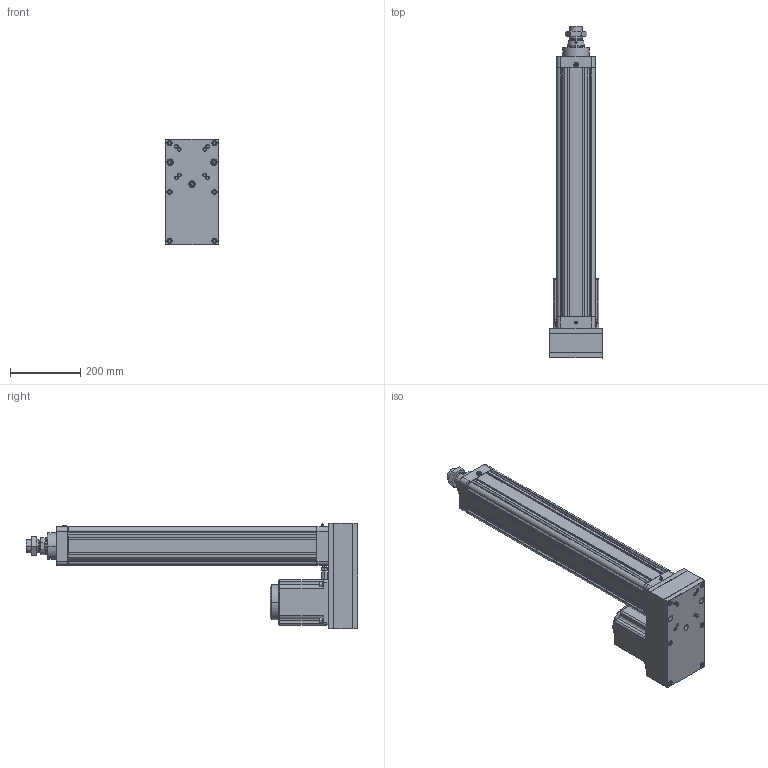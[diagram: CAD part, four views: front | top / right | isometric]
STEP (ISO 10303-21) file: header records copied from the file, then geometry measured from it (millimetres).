
FILE_DESCRIPTION((''),'2;1');
FILE_NAME('HE100-D-P_ASM','2020-03-31T',('ASUS20200'),(''),'CREO PARAMETRIC BY PTC INC, 2014190','CREO PARAMETRIC BY PTC INC, 2014190','');
FILE_SCHEMA(('CONFIG_CONTROL_DESIGN'));
Length unit declared in the file: millimetre
Products named in the file (23): HE100-D-P-001-X1; HE100-D-P-002-X1; HE100-D-P-003-X1; JDB506030; SLM-01; YZ-M6X1; HE100-100-D-P-X1_ASM; HE100-P-010-X1-130N; 130ST-M10010; HE100-P-009-X1-130N; HE100-P-013-X1-130N; TD-8; M8X35; M8X75; LM-M8-7-5; M10X1-25-40; LM-M10-30; LM-M10; HE100-D-P-005-X1; HE100-D-P-004-X1; HE80-D-P-008-X1; LGLM-M10-25; HE100-D-P_ASM
Assembly tree (39 placements, depth 3):
  HE100-D-P_ASM
    HE100-100-D-P-X1_ASM
      HE100-D-P-001-X1
      HE100-D-P-002-X1
      HE100-D-P-003-X1
      JDB506030
      SLM-01
      YZ-M6X1
    HE100-P-010-X1-130N
    130ST-M10010
    HE100-P-009-X1-130N
    HE100-P-013-X1-130N
    TD-8  x4
    M8X35  x4
    M8X75  x6
    LM-M8-7-5  x4
    M10X1-25-40
    LM-M10-30
    LM-M10
    HE100-D-P-005-X1
    HE100-D-P-004-X1
    HE80-D-P-008-X1
    LGLM-M10-25  x4
Bounding box: 150 x 944 x 300 mm (x, y, z)
Volume: 7039347.7 mm3; surface area: 1592295.1 mm2
Topology: 38 solids, 77 shells, 2250 faces, 5254 edges, 3139 vertices
Faces by surface type: plane 798, cone 727, cylinder 629, torus 66, sphere 26, bspline 4
Entity records: 54257 total; most frequent: CARTESIAN_POINT 10594, DIRECTION 9615, ORIENTED_EDGE 8456, EDGE_CURVE 4298, AXIS2_PLACEMENT_3D 3664, VERTEX_POINT 2574, VECTOR 2287, LINE 2287
